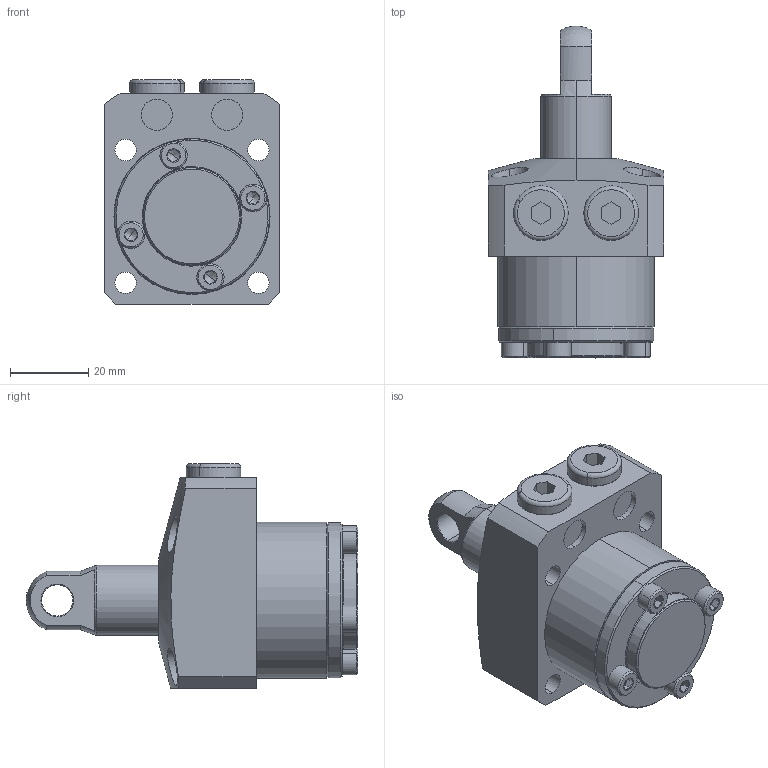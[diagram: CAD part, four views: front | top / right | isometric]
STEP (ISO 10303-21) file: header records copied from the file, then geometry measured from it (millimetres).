
FILE_DESCRIPTION (( 'STEP AP203' ), '1' );
FILE_NAME ('680400-CP-015.step', '2016-11-02T03:18:04', ( 'wxp' ), ( '' ), 'SwSTEP 2.0', 'SolidWorks 2011', '' );
FILE_SCHEMA (( 'CONFIG_CONTROL_DESIGN' ));
Length unit declared in the file: millimetre
Products named in the file (6): 680400-CP-015; 葩璃 680400-15-14^680400-CP-015; 葩璃 68036-15-5^680400-CP-015; 葩璃 680400-15-4^680400-CP-015; 葩璃 680400-15-3^680400-CP-015; 葩璃 680400-15-1^680400-CP-015
Assembly tree (9 placements, depth 2):
  680400-CP-015
    葩璃 680400-15-14^680400-CP-015
    葩璃 680400-15-4^680400-CP-015  x4
    葩璃 680400-15-1^680400-CP-015
    葩璃 68036-15-5^680400-CP-015  x2
    葩璃 680400-15-3^680400-CP-015
Bounding box: 45 x 85 x 57.5 mm (x, y, z)
Volume: 83651.7 mm3; surface area: 22512.9 mm2
Topology: 9 solids, 9 shells, 276 faces, 552 edges, 310 vertices
Faces by surface type: plane 107, cylinder 79, cone 72, torus 16, sphere 2
Entity records: 5379 total; most frequent: CARTESIAN_POINT 1110, DIRECTION 821, ORIENTED_EDGE 668, AXIS2_PLACEMENT_3D 344, EDGE_CURVE 334, VERTEX_POINT 203, EDGE_LOOP 191, CIRCLE 175
